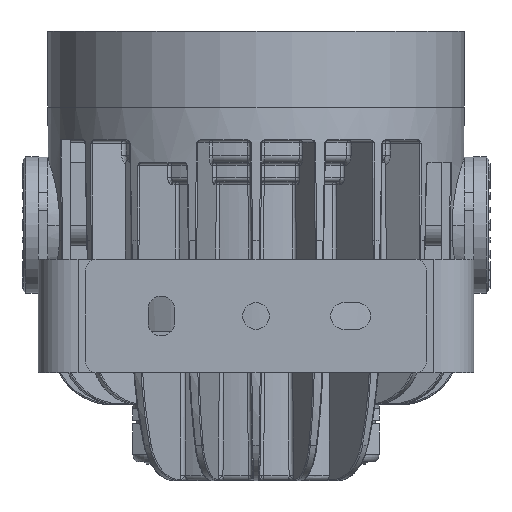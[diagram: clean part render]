
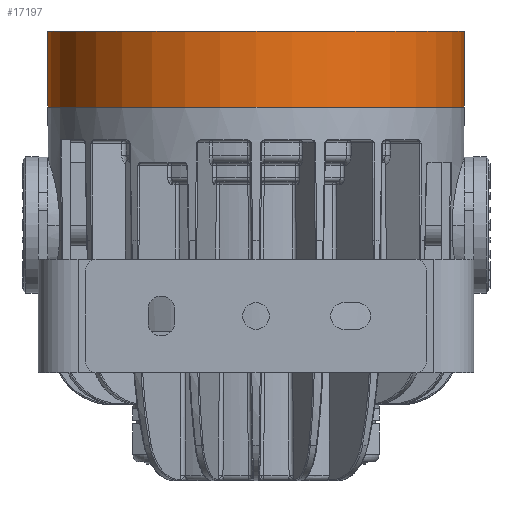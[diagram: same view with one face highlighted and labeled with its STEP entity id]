
A CAD part, front view. The second image highlights one B-rep face of the part: STEP entity #17197.
In plain terms, the highlighted cylindrical face has radius 55 mm (diameter 110 mm), a full revolution.
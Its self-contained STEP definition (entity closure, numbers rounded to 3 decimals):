
#12407 = DIRECTION ( 'NONE',  ( 0., 0., 1. ) ) ;
#13576 = CARTESIAN_POINT ( 'NONE',  ( 55., 97.5, 31.2 ) ) ;
#13599 = CYLINDRICAL_SURFACE ( 'NONE', #67261, 55. ) ;
#17145 = DIRECTION ( 'NONE',  ( 1., 0., 0. ) ) ;
#17197 = ADVANCED_FACE ( 'NONE', ( #85858, #48529 ), #13599, .T. ) ;
#21414 = EDGE_LOOP ( 'NONE', ( #93456 ) ) ;
#35778 = DIRECTION ( 'NONE',  ( 0., 0., 1. ) ) ;
#44698 = CARTESIAN_POINT ( 'NONE',  ( 0., 97.5, 31.2 ) ) ;
#48529 = FACE_OUTER_BOUND ( 'NONE', #96286, .T. ) ;
#49679 = CIRCLE ( 'NONE', #92607, 55. ) ;
#56638 = VERTEX_POINT ( 'NONE', #13576 ) ;
#61625 = EDGE_CURVE ( 'NONE', #103101, #103101, #107882, .T. ) ;
#62088 = DIRECTION ( 'NONE',  ( -1., 0., 0. ) ) ;
#67261 = AXIS2_PLACEMENT_3D ( 'NONE', #86456, #12407, #78498 ) ;
#71046 = DIRECTION ( 'NONE',  ( 0., 0., 1. ) ) ;
#73523 = EDGE_CURVE ( 'NONE', #56638, #56638, #49679, .T. ) ;
#78498 = DIRECTION ( 'NONE',  ( -1., 0., 0. ) ) ;
#85858 = FACE_OUTER_BOUND ( 'NONE', #21414, .T. ) ;
#86456 = CARTESIAN_POINT ( 'NONE',  ( 0., 97.5, 31. ) ) ;
#91406 = CARTESIAN_POINT ( 'NONE',  ( 0., 97.5, 51.2 ) ) ;
#92607 = AXIS2_PLACEMENT_3D ( 'NONE', #44698, #71046, #17145 ) ;
#93456 = ORIENTED_EDGE ( 'NONE', *, *, #73523, .T. ) ;
#96286 = EDGE_LOOP ( 'NONE', ( #117313 ) ) ;
#102517 = CARTESIAN_POINT ( 'NONE',  ( -55., 97.5, 51.2 ) ) ;
#103101 = VERTEX_POINT ( 'NONE', #102517 ) ;
#107882 = CIRCLE ( 'NONE', #109871, 55. ) ;
#109871 = AXIS2_PLACEMENT_3D ( 'NONE', #91406, #35778, #62088 ) ;
#117313 = ORIENTED_EDGE ( 'NONE', *, *, #61625, .F. ) ;
